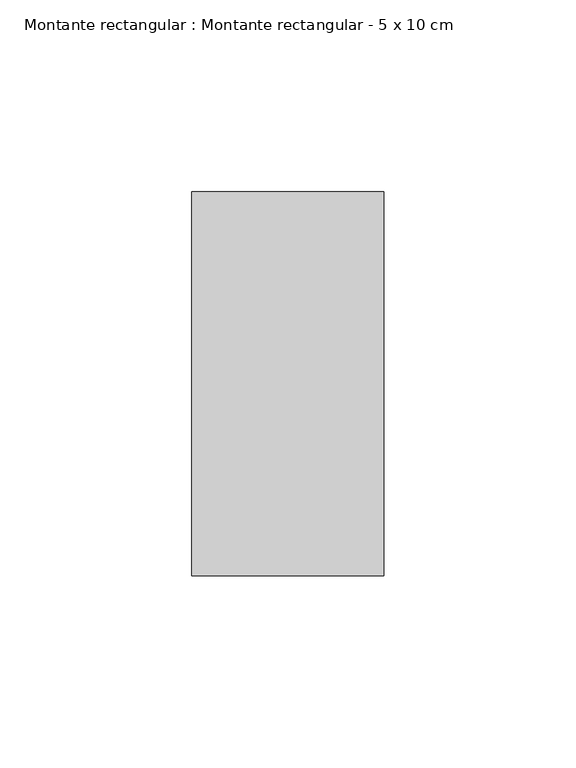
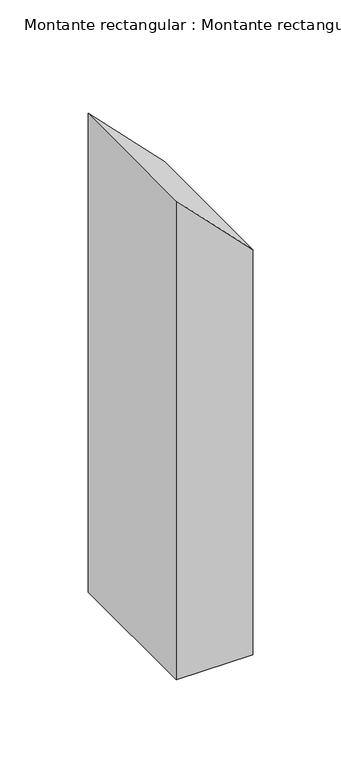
"""IFC4 building model written with IfcOpenShell, lengths in millimetres: member geometry, Montante rectangular : Montante rectangular - 5 x 10 cm."""

from ifc_helpers import new_model, si_unit, frame, origin, place, context, project, spatial, polyline, outline, extrude, source, transform, mapped, element, save


def montante_rectangular_montante_rectangular_5_x_10_cm_866b27ae(model_context):
    return source(origin(), model_context, "Body", "SweptSolid", [
        extrude(outline(polyline([(-50.5552502, 25.0), (0.5434386, -25.0), (-330.8702322, -25.0), (-330.8702322, 25.0), (-50.5552502, 25.0)])), frame((0.0, -50.0, 0.0), z_axis=(0.0, 1.0, 0.0), x_axis=(0.0, 0.0, 1.0)), (0.0, 0.0, 1.0), 100.0),
    ])


if __name__ == "__main__":
    model = new_model("IFC4")
    model_context = context("Model", 3, world=origin())
    ifc_project = project(units=[si_unit("LENGTHUNIT", "METRE", prefix="MILLI")], contexts=[model_context])
    site = spatial("IfcSite", under=ifc_project)
    building = spatial("IfcBuilding", under=site)
    placement = place(None, origin())
    montante_rectangular_montante_rectangular_5_x_10_cm_shape = montante_rectangular_montante_rectangular_5_x_10_cm_866b27ae(model_context)
    element("IfcMember", 1, ObjectType="Montante rectangular : Montante rectangular - 5 x 10 cm", at=placement, inside=building, context=model_context, shape_type="MappedRepresentation", body=[
        mapped(montante_rectangular_montante_rectangular_5_x_10_cm_shape, transform((0.0, 0.0, 0.0), x_axis=(1.0, 0.0, 0.0), y_axis=(0.0, 1.0, 0.0), z_axis=(0.0, 0.0, 1.0))),
    ])
    save(model, "model.ifc")
